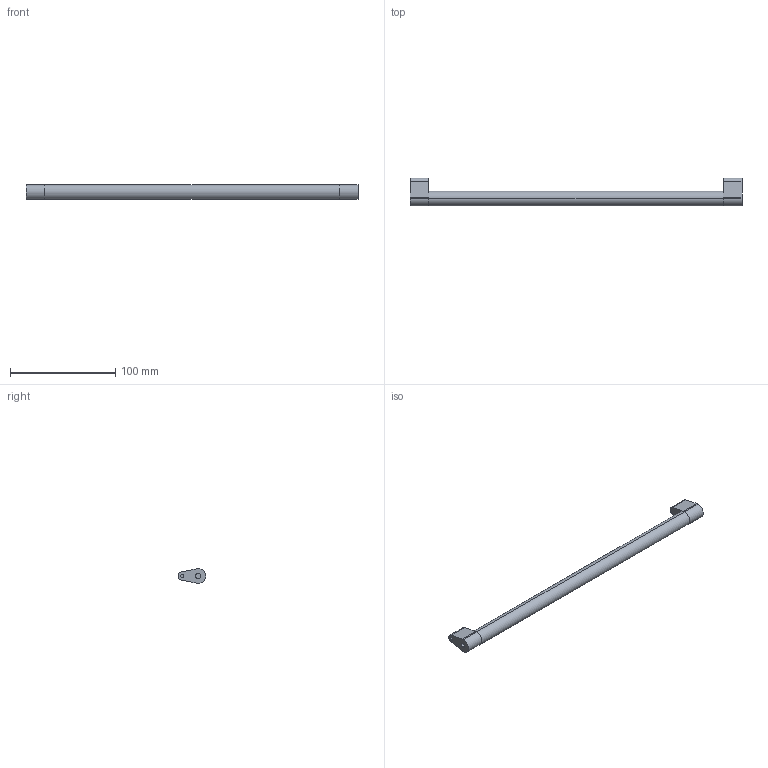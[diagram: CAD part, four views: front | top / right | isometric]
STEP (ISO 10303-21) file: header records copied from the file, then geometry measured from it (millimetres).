
FILE_DESCRIPTION (( 'STEP AP214' ), '1' );
FILE_NAME ('_Synchronisationseinheit Nova Pro KAB400_S16.step', '2010-07-08T13:58:27', ( 'grass' ), ( '' ), 'SwSTEP 2.0', 'SolidWorks 2010', '' );
FILE_SCHEMA (( 'AUTOMOTIVE_DESIGN' ));
Length unit declared in the file: millimetre
Products named in the file (1): _Synchronisationseinheit Nova Pro KAB400_S16
Bounding box: 315 x 26.5 x 14 mm (x, y, z)
Volume: 52177.3 mm3; surface area: 16701.4 mm2
Topology: 3 solids, 3 shells, 36 faces, 78 edges, 52 vertices
Faces by surface type: cylinder 18, plane 18
Entity records: 1050 total; most frequent: DIRECTION 188, CARTESIAN_POINT 167, ORIENTED_EDGE 156, EDGE_CURVE 78, AXIS2_PLACEMENT_3D 73, VERTEX_POINT 52, LINE 42, VECTOR 42
